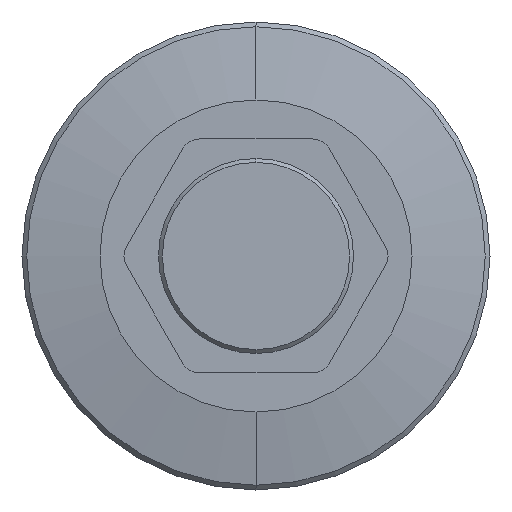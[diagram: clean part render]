
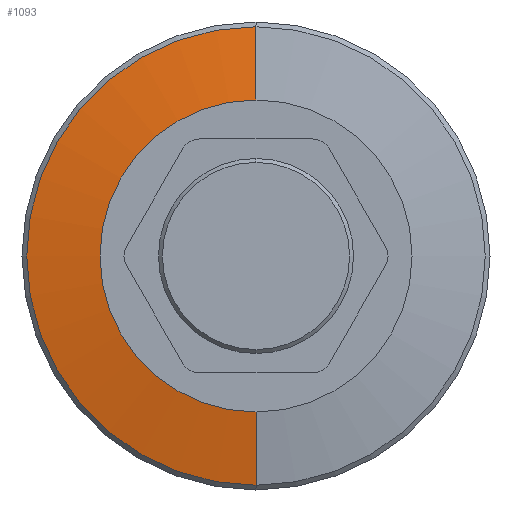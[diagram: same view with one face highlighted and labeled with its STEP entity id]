
A CAD part, left-side view. The second image highlights one B-rep face of the part: STEP entity #1093.
In plain terms, the highlighted conical face has half-angle 80 degrees and reference radius 12 mm.
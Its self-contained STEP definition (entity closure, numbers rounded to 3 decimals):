
#56 = ORIENTED_EDGE ( 'NONE', *, *, #840, .F. ) ;
#81 = VERTEX_POINT ( 'NONE', #409 ) ;
#96 = CARTESIAN_POINT ( 'NONE',  ( 29.705, 0., -12. ) ) ;
#145 = DIRECTION ( 'NONE',  ( -1., 0., 0. ) ) ;
#290 = CARTESIAN_POINT ( 'NONE',  ( 29.705, 0., 12. ) ) ;
#336 = VERTEX_POINT ( 'NONE', #1061 ) ;
#394 = AXIS2_PLACEMENT_3D ( 'NONE', #737, #945, #1383 ) ;
#397 = CARTESIAN_POINT ( 'NONE',  ( 29.662, 0., 0. ) ) ;
#409 = CARTESIAN_POINT ( 'NONE',  ( 29., 0., 8. ) ) ;
#416 = CARTESIAN_POINT ( 'NONE',  ( 29.662, 0., 11.757 ) ) ;
#464 = EDGE_CURVE ( 'NONE', #81, #1111, #1105, .T. ) ;
#511 = DIRECTION ( 'NONE',  ( 0., 0., 1. ) ) ;
#543 = ORIENTED_EDGE ( 'NONE', *, *, #1352, .F. ) ;
#715 = FACE_OUTER_BOUND ( 'NONE', #768, .T. ) ;
#718 = AXIS2_PLACEMENT_3D ( 'NONE', #808, #145, #914 ) ;
#737 = CARTESIAN_POINT ( 'NONE',  ( 29.705, 0., 0. ) ) ;
#768 = EDGE_LOOP ( 'NONE', ( #56, #962, #1293, #543 ) ) ;
#808 = CARTESIAN_POINT ( 'NONE',  ( 29., 0., 0. ) ) ;
#820 = VECTOR ( 'NONE', #920, 1000. ) ;
#840 = EDGE_CURVE ( 'NONE', #81, #336, #938, .T. ) ;
#846 = CARTESIAN_POINT ( 'NONE',  ( 29.662, 0., -11.757 ) ) ;
#914 = DIRECTION ( 'NONE',  ( 0., 0., 1. ) ) ;
#920 = DIRECTION ( 'NONE',  ( 0.174, 0., 0.985 ) ) ;
#938 = CIRCLE ( 'NONE', #718, 8. ) ;
#945 = DIRECTION ( 'NONE',  ( 1., 0., 0. ) ) ;
#957 = CONICAL_SURFACE ( 'NONE', #394, 12., 1.396 ) ;
#962 = ORIENTED_EDGE ( 'NONE', *, *, #464, .T. ) ;
#1018 = EDGE_CURVE ( 'NONE', #1111, #1128, #1422, .T. ) ;
#1031 = LINE ( 'NONE', #96, #1303 ) ;
#1061 = CARTESIAN_POINT ( 'NONE',  ( 29., 0., -8. ) ) ;
#1093 = ADVANCED_FACE ( 'NONE', ( #715 ), #957, .T. ) ;
#1105 = LINE ( 'NONE', #290, #820 ) ;
#1111 = VERTEX_POINT ( 'NONE', #416 ) ;
#1128 = VERTEX_POINT ( 'NONE', #846 ) ;
#1141 = DIRECTION ( 'NONE',  ( -1., 0., 0. ) ) ;
#1199 = DIRECTION ( 'NONE',  ( 0.174, 0., -0.985 ) ) ;
#1214 = AXIS2_PLACEMENT_3D ( 'NONE', #397, #1141, #511 ) ;
#1293 = ORIENTED_EDGE ( 'NONE', *, *, #1018, .T. ) ;
#1303 = VECTOR ( 'NONE', #1199, 1000. ) ;
#1352 = EDGE_CURVE ( 'NONE', #336, #1128, #1031, .T. ) ;
#1383 = DIRECTION ( 'NONE',  ( 0., 0., -1. ) ) ;
#1422 = CIRCLE ( 'NONE', #1214, 11.757 ) ;
